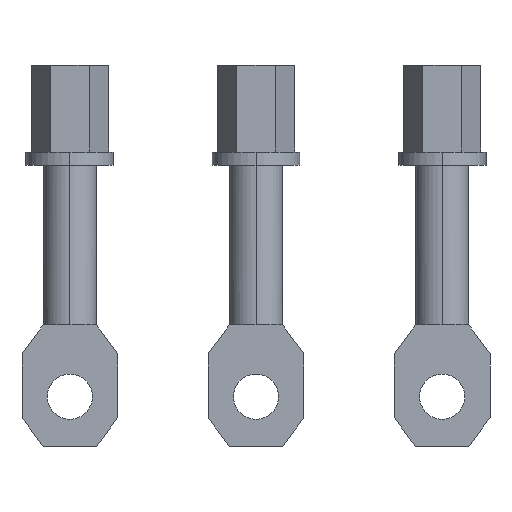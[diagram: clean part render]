
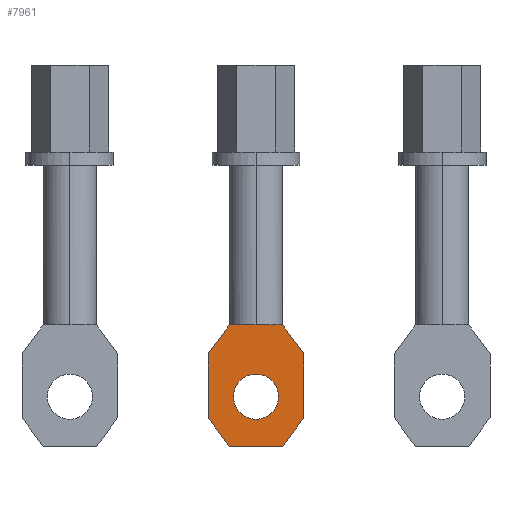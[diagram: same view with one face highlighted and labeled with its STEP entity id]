
A CAD part, front view. The second image highlights one B-rep face of the part: STEP entity #7961.
In plain terms, the highlighted planar face has unit normal (0, -1, 0).
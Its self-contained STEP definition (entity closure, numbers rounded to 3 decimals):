
#211 = VERTEX_POINT ( 'NONE', #5147 ) ;
#312 = EDGE_CURVE ( 'NONE', #2978, #5743, #6903, .T. ) ;
#411 = DIRECTION ( 'NONE',  ( 0., -1., 0. ) ) ;
#418 = EDGE_LOOP ( 'NONE', ( #2829, #7157, #7872, #6125, #6441, #1567, #3562, #7107, #4411, #5050 ) ) ;
#480 = EDGE_CURVE ( 'NONE', #5743, #2788, #4393, .T. ) ;
#505 = DIRECTION ( 'NONE',  ( -1., 0., 0. ) ) ;
#507 = DIRECTION ( 'NONE',  ( 1., 0., 0. ) ) ;
#715 = CARTESIAN_POINT ( 'NONE',  ( -9., -72., -36.6 ) ) ;
#728 = VERTEX_POINT ( 'NONE', #1516 ) ;
#783 = DIRECTION ( 'NONE',  ( -1., 0., 0. ) ) ;
#915 = VECTOR ( 'NONE', #505, 1000. ) ;
#1209 = VERTEX_POINT ( 'NONE', #3230 ) ;
#1369 = CARTESIAN_POINT ( 'NONE',  ( 9., -72., -36.6 ) ) ;
#1379 = DIRECTION ( 'NONE',  ( 0., 1., 0. ) ) ;
#1402 = VERTEX_POINT ( 'NONE', #2797 ) ;
#1464 = CIRCLE ( 'NONE', #7531, 4.25 ) ;
#1509 = DIRECTION ( 'NONE',  ( 0., -1., 0. ) ) ;
#1516 = CARTESIAN_POINT ( 'NONE',  ( -5., -72., -31.15 ) ) ;
#1543 = CARTESIAN_POINT ( 'NONE',  ( -5., -72., -54.05 ) ) ;
#1567 = ORIENTED_EDGE ( 'NONE', *, *, #2550, .T. ) ;
#1610 = CARTESIAN_POINT ( 'NONE',  ( 5., -72., -31.15 ) ) ;
#1624 = DIRECTION ( 'NONE',  ( -0.592, 0., 0.806 ) ) ;
#1676 = VECTOR ( 'NONE', #1624, 1000. ) ;
#2020 = VECTOR ( 'NONE', #4361, 1000. ) ;
#2109 = EDGE_CURVE ( 'NONE', #2632, #3995, #3356, .T. ) ;
#2550 = EDGE_CURVE ( 'NONE', #3989, #2978, #3084, .T. ) ;
#2562 = CARTESIAN_POINT ( 'NONE',  ( -5., -72., -31.15 ) ) ;
#2632 = VERTEX_POINT ( 'NONE', #715 ) ;
#2660 = AXIS2_PLACEMENT_3D ( 'NONE', #3163, #1379, #783 ) ;
#2788 = VERTEX_POINT ( 'NONE', #3999 ) ;
#2797 = CARTESIAN_POINT ( 'NONE',  ( 4.25, -72., -44.65 ) ) ;
#2829 = ORIENTED_EDGE ( 'NONE', *, *, #3195, .T. ) ;
#2943 = LINE ( 'NONE', #4736, #7313 ) ;
#2974 = CARTESIAN_POINT ( 'NONE',  ( 5., -72., -54.05 ) ) ;
#2978 = VERTEX_POINT ( 'NONE', #4849 ) ;
#2993 = VECTOR ( 'NONE', #507, 1000. ) ;
#3051 = CARTESIAN_POINT ( 'NONE',  ( -9., -72., -48.6 ) ) ;
#3084 = LINE ( 'NONE', #1369, #3173 ) ;
#3094 = CARTESIAN_POINT ( 'NONE',  ( -4.25, -72., -44.65 ) ) ;
#3163 = CARTESIAN_POINT ( 'NONE',  ( 0., -72., 17.65 ) ) ;
#3164 = DIRECTION ( 'NONE',  ( -0.592, 0., -0.806 ) ) ;
#3173 = VECTOR ( 'NONE', #3781, 1000. ) ;
#3195 = EDGE_CURVE ( 'NONE', #728, #2632, #3836, .T. ) ;
#3230 = CARTESIAN_POINT ( 'NONE',  ( -5., -72., -54.05 ) ) ;
#3356 = LINE ( 'NONE', #5583, #6938 ) ;
#3364 = CARTESIAN_POINT ( 'NONE',  ( 0., -72., -44.65 ) ) ;
#3462 = EDGE_CURVE ( 'NONE', #3465, #728, #2943, .T. ) ;
#3465 = VERTEX_POINT ( 'NONE', #5378 ) ;
#3562 = ORIENTED_EDGE ( 'NONE', *, *, #312, .T. ) ;
#3654 = DIRECTION ( 'NONE',  ( 0.592, 0., 0.806 ) ) ;
#3781 = DIRECTION ( 'NONE',  ( 0., 0., 1. ) ) ;
#3835 = CARTESIAN_POINT ( 'NONE',  ( 0., -72., -44.65 ) ) ;
#3836 = LINE ( 'NONE', #7600, #4917 ) ;
#3849 = PLANE ( 'NONE',  #2660 ) ;
#3876 = EDGE_CURVE ( 'NONE', #5937, #1402, #7007, .T. ) ;
#3983 = VECTOR ( 'NONE', #7719, 1000. ) ;
#3989 = VERTEX_POINT ( 'NONE', #6149 ) ;
#3995 = VERTEX_POINT ( 'NONE', #3051 ) ;
#3999 = CARTESIAN_POINT ( 'NONE',  ( 4.583, -72., -31.15 ) ) ;
#4041 = CARTESIAN_POINT ( 'NONE',  ( 5., -72., -31.15 ) ) ;
#4064 = LINE ( 'NONE', #2562, #2020 ) ;
#4112 = AXIS2_PLACEMENT_3D ( 'NONE', #3835, #411, #4897 ) ;
#4236 = VECTOR ( 'NONE', #3654, 1000. ) ;
#4361 = DIRECTION ( 'NONE',  ( -1., 0., 0. ) ) ;
#4393 = LINE ( 'NONE', #6687, #915 ) ;
#4411 = ORIENTED_EDGE ( 'NONE', *, *, #5978, .T. ) ;
#4736 = CARTESIAN_POINT ( 'NONE',  ( -5., -72., -31.15 ) ) ;
#4849 = CARTESIAN_POINT ( 'NONE',  ( 9., -72., -36.6 ) ) ;
#4897 = DIRECTION ( 'NONE',  ( 1., 0., 0. ) ) ;
#4917 = VECTOR ( 'NONE', #3164, 1000. ) ;
#5050 = ORIENTED_EDGE ( 'NONE', *, *, #3462, .T. ) ;
#5147 = CARTESIAN_POINT ( 'NONE',  ( 5., -72., -54.05 ) ) ;
#5378 = CARTESIAN_POINT ( 'NONE',  ( -4.583, -72., -31.15 ) ) ;
#5470 = DIRECTION ( 'NONE',  ( 0., 0., -1. ) ) ;
#5583 = CARTESIAN_POINT ( 'NONE',  ( -9., -72., -48.6 ) ) ;
#5642 = EDGE_CURVE ( 'NONE', #3995, #1209, #5822, .T. ) ;
#5743 = VERTEX_POINT ( 'NONE', #1610 ) ;
#5818 = LINE ( 'NONE', #2974, #2993 ) ;
#5822 = LINE ( 'NONE', #1543, #3983 ) ;
#5877 = LINE ( 'NONE', #7349, #4236 ) ;
#5937 = VERTEX_POINT ( 'NONE', #3094 ) ;
#5978 = EDGE_CURVE ( 'NONE', #2788, #3465, #4064, .T. ) ;
#6125 = ORIENTED_EDGE ( 'NONE', *, *, #6357, .T. ) ;
#6143 = EDGE_CURVE ( 'NONE', #1402, #5937, #1464, .T. ) ;
#6149 = CARTESIAN_POINT ( 'NONE',  ( 9., -72., -48.6 ) ) ;
#6266 = FACE_OUTER_BOUND ( 'NONE', #418, .T. ) ;
#6344 = ORIENTED_EDGE ( 'NONE', *, *, #3876, .F. ) ;
#6357 = EDGE_CURVE ( 'NONE', #1209, #211, #5818, .T. ) ;
#6441 = ORIENTED_EDGE ( 'NONE', *, *, #7084, .T. ) ;
#6609 = EDGE_LOOP ( 'NONE', ( #6344, #6667 ) ) ;
#6667 = ORIENTED_EDGE ( 'NONE', *, *, #6143, .F. ) ;
#6687 = CARTESIAN_POINT ( 'NONE',  ( -5., -72., -31.15 ) ) ;
#6903 = LINE ( 'NONE', #4041, #1676 ) ;
#6938 = VECTOR ( 'NONE', #5470, 1000. ) ;
#7007 = CIRCLE ( 'NONE', #4112, 4.25 ) ;
#7084 = EDGE_CURVE ( 'NONE', #211, #3989, #5877, .T. ) ;
#7107 = ORIENTED_EDGE ( 'NONE', *, *, #480, .T. ) ;
#7157 = ORIENTED_EDGE ( 'NONE', *, *, #2109, .T. ) ;
#7313 = VECTOR ( 'NONE', #7860, 1000. ) ;
#7349 = CARTESIAN_POINT ( 'NONE',  ( 9., -72., -48.6 ) ) ;
#7531 = AXIS2_PLACEMENT_3D ( 'NONE', #3364, #1509, #7797 ) ;
#7600 = CARTESIAN_POINT ( 'NONE',  ( -9., -72., -36.6 ) ) ;
#7719 = DIRECTION ( 'NONE',  ( 0.592, 0., -0.806 ) ) ;
#7728 = FACE_BOUND ( 'NONE', #6609, .T. ) ;
#7797 = DIRECTION ( 'NONE',  ( 1., 0., 0. ) ) ;
#7860 = DIRECTION ( 'NONE',  ( -1., 0., 0. ) ) ;
#7872 = ORIENTED_EDGE ( 'NONE', *, *, #5642, .T. ) ;
#7961 = ADVANCED_FACE ( 'NONE', ( #6266, #7728 ), #3849, .F. ) ;
